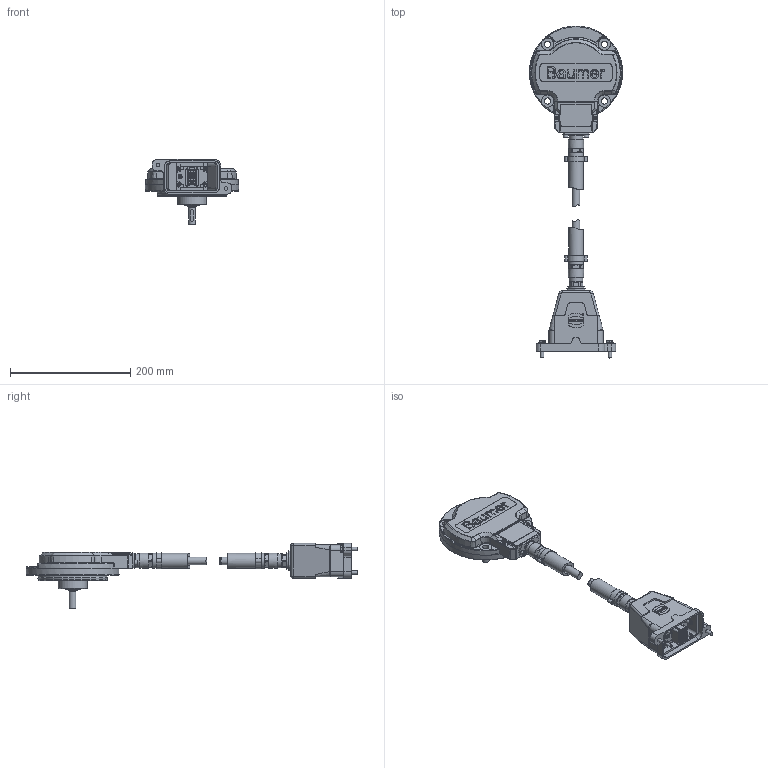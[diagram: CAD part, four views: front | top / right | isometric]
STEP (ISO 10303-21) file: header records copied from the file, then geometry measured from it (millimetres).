
FILE_DESCRIPTION(/* description */ ('CAx-IF Rec.Pracs.---Representation and Presentation of Product Manufacturing Information (PMI)---4.0---2014-10-13','CAx-IF Rec.Pracs.---3D Tessellated Geometry---0.4---2014-09-14','2;1'),/* implementation_level */ '2;1');
FILE_NAME(/* name */ 'BPIV2-D1S2',/* time_stamp */ '2024-10-28T09:20:49+01:00',/* author */ (''),/* organization */ ('Baumer'),/* preprocessor_version */ 'ST-DEVELOPER v19.4',/* originating_system */ 'Solid Edge',/* authorisation */ 'Unknown');
FILE_SCHEMA (('AP242_MANAGED_MODEL_BASED_3D_ENGINEERING_MIM_LF { 1 0 10303 442 1 1 4 }'));
Products named in the file (1): BPIV2-D1S2
Bounding box: 155.37 x 553.04 x 108.5 mm (x, y, z)
Volume: 1026675.6 mm3; surface area: 189822.2 mm2
Topology: 2 solids, 2 shells, 1932 faces, 4948 edges, 3217 vertices
Faces by surface type: plane 1231, cylinder 435, bspline 132, torus 59, cone 55, sphere 20
Full cylindrical faces by diameter (mm): 0.508 x1, 0.665 x1, 1.575 x2, 2.429 x2, 2.6 x24, 3 x24, 3.4 x24, 3.6 x1, 3.7 x3, 3.8 x24, 4 x1, 4.3 x2, 4.5 x2, 5 x2, 6 x2, 6.5 x2, 7 x1, 8.5 x7, 10.5 x4, 11 x1, 12 x2, 12.6 x2, 13.1 x1, 14.1 x2, 15 x3, 15.9 x2, 18.376 x1, 23 x4, 24.9 x2, 25 x2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
Entity records: 73615 total; most frequent: CARTESIAN_POINT 14996, ORIENTED_EDGE 9232, DIRECTION 8919, EDGE_CURVE 4616, VERTEX_POINT 3127, LINE 2993, VECTOR 2993, AXIS2_PLACEMENT_3D 2963
